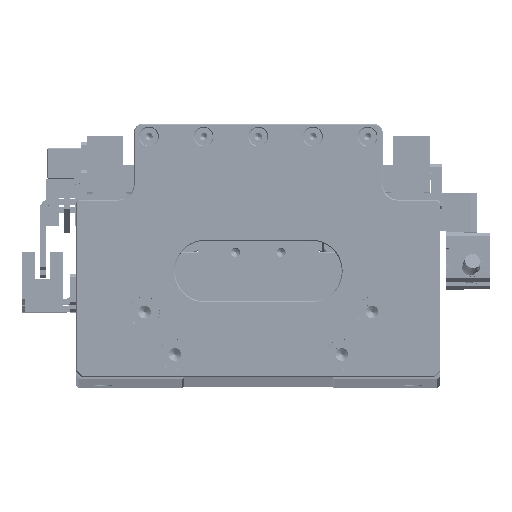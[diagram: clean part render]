
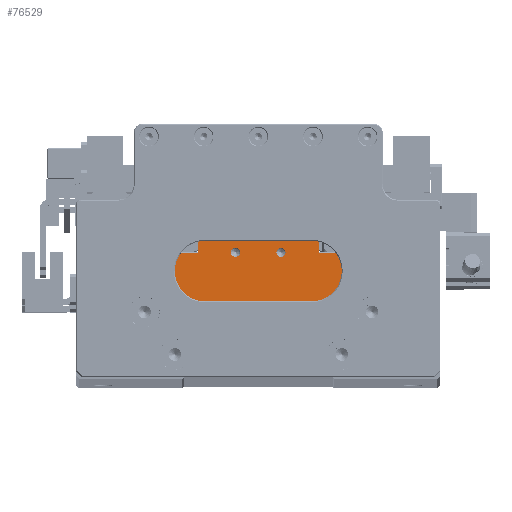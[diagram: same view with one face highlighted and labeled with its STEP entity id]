
A CAD part, top view. The second image highlights one B-rep face of the part: STEP entity #76529.
In plain terms, the highlighted planar face has unit normal (0, 0, 1).
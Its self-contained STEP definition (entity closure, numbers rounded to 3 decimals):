
#797 = VECTOR ( 'NONE', #68308, 1000. ) ;
#4260 = DIRECTION ( 'NONE',  ( 1., 0., 0. ) ) ;
#4491 = CIRCLE ( 'NONE', #27796, 1.525 ) ;
#6474 = CARTESIAN_POINT ( 'NONE',  ( 4.281, 6.304, 411.036 ) ) ;
#7960 = DIRECTION ( 'NONE',  ( 0., 1., 0. ) ) ;
#10559 = CARTESIAN_POINT ( 'NONE',  ( -31.594, 6.204, 411.036 ) ) ;
#11452 = VERTEX_POINT ( 'NONE', #79407 ) ;
#12534 = ORIENTED_EDGE ( 'NONE', *, *, #44570, .F. ) ;
#12674 = DIRECTION ( 'NONE',  ( 1., 0., 0. ) ) ;
#14656 = VERTEX_POINT ( 'NONE', #73450 ) ;
#14783 = VERTEX_POINT ( 'NONE', #43087 ) ;
#16102 = LINE ( 'NONE', #114283, #129553 ) ;
#17065 = VERTEX_POINT ( 'NONE', #89557 ) ;
#17774 = CARTESIAN_POINT ( 'NONE',  ( -21.694, 6.204, 411.036 ) ) ;
#17864 = LINE ( 'NONE', #56944, #128004 ) ;
#18191 = FACE_BOUND ( 'NONE', #87244, .T. ) ;
#19009 = AXIS2_PLACEMENT_3D ( 'NONE', #96201, #32333, #106927 ) ;
#19780 = AXIS2_PLACEMENT_3D ( 'NONE', #73330, #126972, #63093 ) ;
#19842 = LINE ( 'NONE', #100488, #98220 ) ;
#27796 = AXIS2_PLACEMENT_3D ( 'NONE', #60132, #134719, #70860 ) ;
#28517 = CARTESIAN_POINT ( 'NONE',  ( 28.206, -1.296, 411.036 ) ) ;
#29151 = LINE ( 'NONE', #89265, #797 ) ;
#32051 = ORIENTED_EDGE ( 'NONE', *, *, #58661, .F. ) ;
#32333 = DIRECTION ( 'NONE',  ( 0., 0., 1. ) ) ;
#33250 = ORIENTED_EDGE ( 'NONE', *, *, #79592, .F. ) ;
#35238 = DIRECTION ( 'NONE',  ( 0., 0., 1. ) ) ;
#37496 = DIRECTION ( 'NONE',  ( 1., 0., 0. ) ) ;
#37589 = ORIENTED_EDGE ( 'NONE', *, *, #103322, .F. ) ;
#39718 = CARTESIAN_POINT ( 'NONE',  ( 5.806, 6.304, 411.036 ) ) ;
#41600 = PLANE ( 'NONE',  #19780 ) ;
#43087 = CARTESIAN_POINT ( 'NONE',  ( 28.206, -12.996, 411.036 ) ) ;
#44341 = CARTESIAN_POINT ( 'NONE',  ( -9.194, 10.204, 411.036 ) ) ;
#44570 = EDGE_CURVE ( 'NONE', #53968, #17065, #46397, .T. ) ;
#46397 = LINE ( 'NONE', #86329, #103113 ) ;
#50505 = DIRECTION ( 'NONE',  ( 1., 0., 0. ) ) ;
#53113 = EDGE_CURVE ( 'NONE', #11452, #113436, #90827, .T. ) ;
#53968 = VERTEX_POINT ( 'NONE', #123658 ) ;
#56132 = VERTEX_POINT ( 'NONE', #94579 ) ;
#56944 = CARTESIAN_POINT ( 'NONE',  ( -9.194, -12.996, 411.036 ) ) ;
#58661 = EDGE_CURVE ( 'NONE', #86073, #56132, #86427, .T. ) ;
#60132 = CARTESIAN_POINT ( 'NONE',  ( 5.806, 6.304, 411.036 ) ) ;
#60961 = EDGE_CURVE ( 'NONE', #65185, #101677, #16102, .T. ) ;
#61758 = VERTEX_POINT ( 'NONE', #10559 ) ;
#63093 = DIRECTION ( 'NONE',  ( -1., 0., 0. ) ) ;
#63777 = CARTESIAN_POINT ( 'NONE',  ( -31.594, -12.996, 411.036 ) ) ;
#65185 = VERTEX_POINT ( 'NONE', #17774 ) ;
#65857 = CARTESIAN_POINT ( 'NONE',  ( -7.669, 6.304, 411.036 ) ) ;
#66762 = ORIENTED_EDGE ( 'NONE', *, *, #128880, .F. ) ;
#68308 = DIRECTION ( 'NONE',  ( 1., 0., 0. ) ) ;
#70860 = DIRECTION ( 'NONE',  ( 1., 0., 0. ) ) ;
#72500 = ORIENTED_EDGE ( 'NONE', *, *, #116225, .F. ) ;
#73330 = CARTESIAN_POINT ( 'NONE',  ( -9.194, -1.296, 411.036 ) ) ;
#73450 = CARTESIAN_POINT ( 'NONE',  ( 28.206, 6.204, 411.036 ) ) ;
#76529 = ADVANCED_FACE ( 'NONE', ( #131652, #18191, #128329 ), #41600, .F. ) ;
#78159 = EDGE_LOOP ( 'NONE', ( #33250, #37589, #105672, #103396, #72500, #12534, #123263, #115437 ) ) ;
#79407 = CARTESIAN_POINT ( 'NONE',  ( -10.719, 6.304, 411.036 ) ) ;
#79592 = EDGE_CURVE ( 'NONE', #61758, #65185, #29151, .T. ) ;
#81711 = CARTESIAN_POINT ( 'NONE',  ( -31.594, -1.296, 411.036 ) ) ;
#83775 = AXIS2_PLACEMENT_3D ( 'NONE', #99129, #35238, #109875 ) ;
#86073 = VERTEX_POINT ( 'NONE', #6474 ) ;
#86329 = CARTESIAN_POINT ( 'NONE',  ( 18.306, -1.296, 411.036 ) ) ;
#86427 = CIRCLE ( 'NONE', #117310, 1.525 ) ;
#87190 = ORIENTED_EDGE ( 'NONE', *, *, #130934, .F. ) ;
#87244 = EDGE_LOOP ( 'NONE', ( #66762, #32051 ) ) ;
#89265 = CARTESIAN_POINT ( 'NONE',  ( -9.194, 6.204, 411.036 ) ) ;
#89557 = CARTESIAN_POINT ( 'NONE',  ( 18.306, 6.204, 411.036 ) ) ;
#90827 = CIRCLE ( 'NONE', #83775, 1.525 ) ;
#91503 = CARTESIAN_POINT ( 'NONE',  ( -21.694, 10.204, 411.036 ) ) ;
#92427 = DIRECTION ( 'NONE',  ( 0., 1., 0. ) ) ;
#94579 = CARTESIAN_POINT ( 'NONE',  ( 7.331, 6.304, 411.036 ) ) ;
#96201 = CARTESIAN_POINT ( 'NONE',  ( -9.194, 6.304, 411.036 ) ) ;
#96663 = VERTEX_POINT ( 'NONE', #63777 ) ;
#98220 = VECTOR ( 'NONE', #37496, 1000. ) ;
#98677 = ORIENTED_EDGE ( 'NONE', *, *, #53113, .F. ) ;
#99129 = CARTESIAN_POINT ( 'NONE',  ( -9.194, 6.304, 411.036 ) ) ;
#100488 = CARTESIAN_POINT ( 'NONE',  ( -9.194, 6.204, 411.036 ) ) ;
#101677 = VERTEX_POINT ( 'NONE', #91503 ) ;
#101725 = EDGE_CURVE ( 'NONE', #14656, #14783, #119888, .T. ) ;
#103113 = VECTOR ( 'NONE', #118097, 1000. ) ;
#103322 = EDGE_CURVE ( 'NONE', #96663, #61758, #136159, .T. ) ;
#103396 = ORIENTED_EDGE ( 'NONE', *, *, #101725, .F. ) ;
#105443 = VECTOR ( 'NONE', #12674, 1000. ) ;
#105672 = ORIENTED_EDGE ( 'NONE', *, *, #135468, .T. ) ;
#106927 = DIRECTION ( 'NONE',  ( 1., 0., 0. ) ) ;
#107240 = EDGE_CURVE ( 'NONE', #101677, #53968, #133813, .T. ) ;
#109875 = DIRECTION ( 'NONE',  ( 1., 0., 0. ) ) ;
#113436 = VERTEX_POINT ( 'NONE', #65857 ) ;
#113903 = DIRECTION ( 'NONE',  ( 0., -1., 0. ) ) ;
#114283 = CARTESIAN_POINT ( 'NONE',  ( -21.694, -1.296, 411.036 ) ) ;
#114393 = DIRECTION ( 'NONE',  ( 0., 0., 1. ) ) ;
#115437 = ORIENTED_EDGE ( 'NONE', *, *, #60961, .F. ) ;
#115827 = CIRCLE ( 'NONE', #19009, 1.525 ) ;
#116225 = EDGE_CURVE ( 'NONE', #17065, #14656, #19842, .T. ) ;
#116546 = VECTOR ( 'NONE', #113903, 1000. ) ;
#117310 = AXIS2_PLACEMENT_3D ( 'NONE', #39718, #114393, #50505 ) ;
#118097 = DIRECTION ( 'NONE',  ( 0., -1., 0. ) ) ;
#119888 = LINE ( 'NONE', #28517, #116546 ) ;
#123263 = ORIENTED_EDGE ( 'NONE', *, *, #107240, .F. ) ;
#123658 = CARTESIAN_POINT ( 'NONE',  ( 18.306, 10.204, 411.036 ) ) ;
#126972 = DIRECTION ( 'NONE',  ( 0., 0., -1. ) ) ;
#128004 = VECTOR ( 'NONE', #4260, 1000. ) ;
#128329 = FACE_BOUND ( 'NONE', #129343, .T. ) ;
#128880 = EDGE_CURVE ( 'NONE', #56132, #86073, #4491, .T. ) ;
#129343 = EDGE_LOOP ( 'NONE', ( #87190, #98677 ) ) ;
#129503 = VECTOR ( 'NONE', #92427, 1000. ) ;
#129553 = VECTOR ( 'NONE', #7960, 1000. ) ;
#130934 = EDGE_CURVE ( 'NONE', #113436, #11452, #115827, .T. ) ;
#131652 = FACE_OUTER_BOUND ( 'NONE', #78159, .T. ) ;
#133813 = LINE ( 'NONE', #44341, #105443 ) ;
#134719 = DIRECTION ( 'NONE',  ( 0., 0., 1. ) ) ;
#135468 = EDGE_CURVE ( 'NONE', #96663, #14783, #17864, .T. ) ;
#136159 = LINE ( 'NONE', #81711, #129503 ) ;
